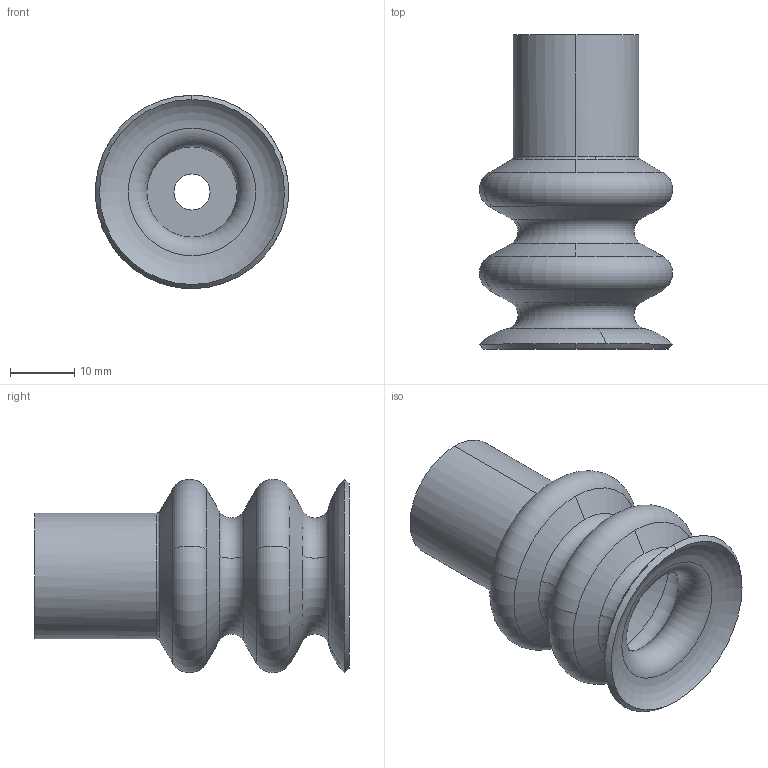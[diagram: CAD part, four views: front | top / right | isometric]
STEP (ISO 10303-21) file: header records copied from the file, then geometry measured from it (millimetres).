
FILE_DESCRIPTION (( 'STEP AP214' ), '1' );
FILE_NAME ('25B.030.007.STEP', '2023-08-21T12:56:51', ( '' ), ( '' ), 'SwSTEP 2.0', 'SolidWorks 2018', '' );
FILE_SCHEMA (( 'AUTOMOTIVE_DESIGN' ));
Length unit declared in the file: millimetre
Products named in the file (1): 25B.030.007
Bounding box: 29.99 x 48.78 x 30 mm (x, y, z)
Volume: 9270.5 mm3; surface area: 8446.8 mm2
Topology: 1 solids, 1 shells, 39 faces, 100 edges, 64 vertices
Faces by surface type: torus 17, cone 14, cylinder 5, plane 3
Full cylindrical faces by diameter (mm): 5.596 x1
Entity records: 1512 total; most frequent: DIRECTION 244, CARTESIAN_POINT 192, ORIENTED_EDGE 178, AXIS2_PLACEMENT_3D 115, EDGE_CURVE 89, CIRCLE 75, VERTEX_POINT 63, EDGE_LOOP 52
